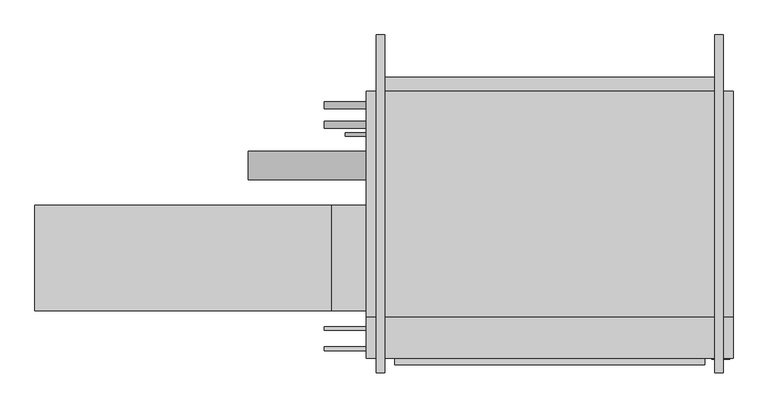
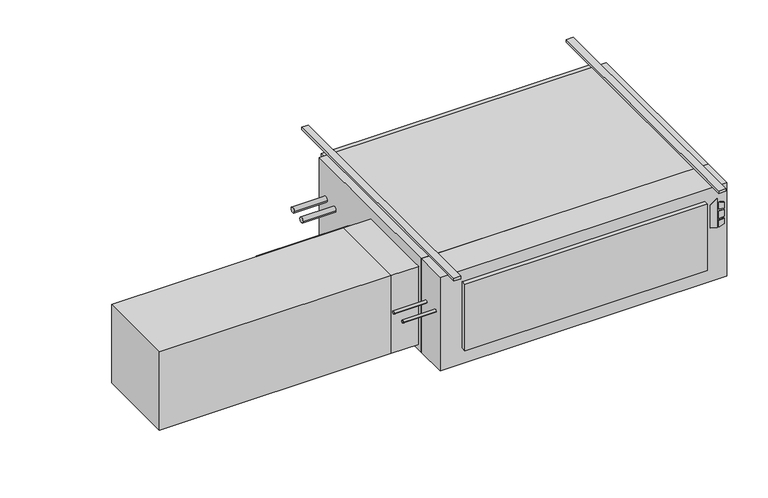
"""IFC4 building model written with IfcOpenShell, lengths in millimetres: proxy geometry."""

import ifcopenshell
import ifcopenshell.guid

model = None  # the IFC model being written
_history = None  # IfcOwnerHistory: only IFC2X3 demands one
_inside = {}  # id of a spatial element -> (the spatial element, [elements in it])
_under = {}  # id of a project, library or spatial element -> (it, [spatial elements below it])
_declared = {}  # id of a project -> (the project, [libraries it declares])
_typed = {}  # id of a type object -> (the type object, [elements of that type])
_made_of = {}  # id of a material, layer set ... -> (it, [elements and type objects made of it])


def new_model(schema):
    """Start an empty IFC model of exactly this schema.

    Asked for "IFC4X3", IfcOpenShell would pick the latest addendum, in which some entities
    have other attributes; the version numbers below select the first issue.
    IFC2X3 requires an IfcOwnerHistory on every rooted entity: one is made here for all.
    """
    global model, _history
    if schema == "IFC4X3":
        model = ifcopenshell.file(schema_version=(4, 3, 0, 0))
    else:
        model = ifcopenshell.file(schema=schema)
    _inside.clear()
    _under.clear()
    _declared.clear()
    _typed.clear()
    _made_of.clear()
    _history = None
    if model.schema == "IFC2X3":
        org = make("IfcOrganization", Name="unknown")
        user = make(
            "IfcPersonAndOrganization",
            ThePerson=make("IfcPerson", FamilyName="unknown"),
            TheOrganization=org,
        )
        app = make(
            "IfcApplication",
            ApplicationDeveloper=org,
            Version="unknown",
            ApplicationFullName="unknown",
            ApplicationIdentifier="unknown",
        )
        _history = make(
            "IfcOwnerHistory",
            OwningUser=user,
            OwningApplication=app,
            ChangeAction="ADDED",
            CreationDate=0,
        )
    return model


def make(cls, **values):
    """One entity of the class cls with the attributes given. An attribute that is None is left unset."""
    return model.create_entity(
        cls, **{name: value for name, value in values.items() if value is not None}
    )


def rooted(cls, **values):
    """An entity with a GlobalId (a new one), such as an element, a storey or a relation."""
    return make(cls, GlobalId=ifcopenshell.guid.new(), OwnerHistory=_history, **values)


def si_unit(unit_type, name, prefix=None):
    """IfcSIUnit, for example si_unit("LENGTHUNIT", "METRE", prefix="MILLI")."""
    return make("IfcSIUnit", UnitType=unit_type, Prefix=prefix, Name=name)


def assignment(units):
    """IfcUnitAssignment: the units of a project."""
    return None if units is None else make("IfcUnitAssignment", Units=units)


def point(xyz):
    """IfcCartesianPoint."""
    return None if xyz is None else make("IfcCartesianPoint", Coordinates=xyz)


def direction(xyz):
    """IfcDirection."""
    return None if xyz is None else make("IfcDirection", DirectionRatios=xyz)


def frame(location, z_axis=None, x_axis=None):
    """IfcAxis2Placement3D, a coordinate frame: its origin and axes. An axis left out is left unset."""
    return make(
        "IfcAxis2Placement3D",
        Location=point(location),
        Axis=direction(z_axis),
        RefDirection=direction(x_axis),
    )


def frame_2d(location, x_axis=None):
    """IfcAxis2Placement2D, a coordinate frame in the plane: its origin and x axis."""
    return make(
        "IfcAxis2Placement2D", Location=point(location), RefDirection=direction(x_axis)
    )


def origin():
    """The frame at (0, 0, 0) with its axes left unset."""
    return frame((0.0, 0.0, 0.0))


def origin_with_axes():
    """The frame at (0, 0, 0) with the z axis (0, 0, 1) and the x axis (1, 0, 0) written out."""
    return frame((0.0, 0.0, 0.0), z_axis=(0.0, 0.0, 1.0), x_axis=(1.0, 0.0, 0.0))


def place(relative_to, where):
    """IfcLocalPlacement: puts the frame where relative to a parent placement (None: the world)."""
    return make(
        "IfcLocalPlacement", PlacementRelTo=relative_to, RelativePlacement=where
    )


def context(
    kind, dimensions, precision=None, world=None, true_north=None, identifier=None
):
    """IfcGeometricRepresentationContext, for example the 3D "Model" context."""
    return make(
        "IfcGeometricRepresentationContext",
        ContextIdentifier=identifier,
        ContextType=kind,
        CoordinateSpaceDimension=dimensions,
        Precision=precision,
        WorldCoordinateSystem=world,
        TrueNorth=true_north,
    )


def project(units=None, contexts=None):
    """IfcProject with its units and contexts."""
    return rooted(
        "IfcProject",
        Name="project",
        RepresentationContexts=contexts,
        UnitsInContext=assignment(units),
    )


def spatial(cls, under=None, at=None, **own):
    """A site, building, storey or space (cls), placed at a placement, below another one or the project."""
    s = rooted(cls, ObjectPlacement=at, **own)
    if under is not None:
        _under.setdefault(under.id(), (under, []))[1].append(s)
    return s


def polyline(points):
    """IfcPolyline through the points."""
    return make("IfcPolyline", Points=[point(p) for p in points])


def circle_curve(where, radius):
    """IfcCircle in the frame where."""
    return make("IfcCircle", Position=where, Radius=radius)


def trimmed(basis, trim1, trim2, sense, master):
    """IfcTrimmedCurve: the piece of a basis curve between two trims."""
    return make(
        "IfcTrimmedCurve",
        BasisCurve=basis,
        Trim1=trim1,
        Trim2=trim2,
        SenseAgreement=sense,
        MasterRepresentation=master,
    )


def segment(curve, same_sense, transition):
    """IfcCompositeCurveSegment."""
    return make(
        "IfcCompositeCurveSegment",
        Transition=transition,
        SameSense=same_sense,
        ParentCurve=curve,
    )


def composite_curve(segments, self_intersect=None):
    """IfcCompositeCurve: segments joined end to end."""
    return make("IfcCompositeCurve", Segments=segments, SelfIntersect=self_intersect)


def outline(outer, holes=None, kind="AREA"):
    """IfcArbitraryClosedProfileDef: a profile drawn as a closed curve; with holes, ...WithVoids."""
    if holes is None:
        return make("IfcArbitraryClosedProfileDef", ProfileType=kind, OuterCurve=outer)
    return make(
        "IfcArbitraryProfileDefWithVoids",
        ProfileType=kind,
        OuterCurve=outer,
        InnerCurves=holes,
    )


def extrude(swept, where, along, depth):
    """IfcExtrudedAreaSolid: the profile swept, set in the frame where, extruded along a direction by depth."""
    return make(
        "IfcExtrudedAreaSolid",
        SweptArea=swept,
        Position=where,
        ExtrudedDirection=direction(along),
        Depth=depth,
    )


def shape(context_of_items, identifier, shape_type, items):
    """IfcShapeRepresentation: the items that make up one representation, for example the "Body"."""
    return make(
        "IfcShapeRepresentation",
        ContextOfItems=context_of_items,
        RepresentationIdentifier=identifier,
        RepresentationType=shape_type,
        Items=items,
    )


def source(mapping_origin, context_of_items, identifier, shape_type, items):
    """IfcRepresentationMap: a shape defined once, which mapped items show again and again."""
    return make(
        "IfcRepresentationMap",
        MappingOrigin=mapping_origin,
        MappedRepresentation=shape(context_of_items, identifier, shape_type, items),
    )


def transform(
    local_origin,
    x_axis=None,
    y_axis=None,
    z_axis=None,
    scale=None,
    scale2=None,
    scale3=None,
    uniform=True,
):
    """IfcCartesianTransformationOperator3D, or its non-uniform kind. x_axis, y_axis, z_axis: its Axis1, 2, 3."""
    if uniform:
        return make(
            "IfcCartesianTransformationOperator3D",
            Axis1=direction(x_axis),
            Axis2=direction(y_axis),
            LocalOrigin=point(local_origin),
            Scale=scale,
            Axis3=direction(z_axis),
        )
    return make(
        "IfcCartesianTransformationOperator3DnonUniform",
        Axis1=direction(x_axis),
        Axis2=direction(y_axis),
        LocalOrigin=point(local_origin),
        Scale=scale,
        Axis3=direction(z_axis),
        Scale2=scale2,
        Scale3=scale3,
    )


def mapped(mapping_source, mapping_target):
    """IfcMappedItem: shows the shape of a source again, moved by a transform."""
    return make(
        "IfcMappedItem", MappingSource=mapping_source, MappingTarget=mapping_target
    )


def made_of(thing, what):
    """Note that an element or type object is made of a material, layer set ...; save() writes the relation."""
    if what is not None:
        _made_of.setdefault(what.id(), (what, []))[1].append(thing)
    return thing


def element(
    cls,
    number,
    at=None,
    inside=None,
    cuts=None,
    type_object=None,
    material=None,
    context=None,
    identifier="Body",
    shape_type=None,
    held_by="IfcProductDefinitionShape",
    body=None,
    shapes=None,
    **own,
):
    """One element of the class cls, such as IfcWall. Its Tag is "e" and its number.

    at: its placement. inside: the storey or other place that contains it. cuts: it is an
    opening in that element (IfcRelVoidsElement). A single representation is given by context,
    identifier, shape_type and body (its items); several are given by shapes. held_by: the class
    of the entity that holds the representations. save() writes the other relations.
    """
    e = rooted(cls, Tag="e%d" % number, ObjectPlacement=at, **own)
    if body is not None:
        shapes = [shape(context, identifier, shape_type, body)]
    if shapes is not None:
        e.Representation = make(held_by, Representations=shapes)
    if inside is not None:
        _inside.setdefault(inside.id(), (inside, []))[1].append(e)
    if cuts is not None:
        rooted(
            "IfcRelVoidsElement", RelatingBuildingElement=cuts, RelatedOpeningElement=e
        )
    if type_object is not None:
        _typed.setdefault(type_object.id(), (type_object, []))[1].append(e)
    return made_of(e, material)


def aggregate(whole, parts):
    """IfcRelAggregates: a whole, such as a stair, and the parts it consists of."""
    return rooted("IfcRelAggregates", RelatingObject=whole, RelatedObjects=parts)


def save(model, path):
    """Write the relations noted so far, then the file.

    IfcRelAggregates (storeys below a building ...), IfcRelContainedInSpatialStructure (elements
    in a storey), IfcRelDefinesByType, IfcRelAssociatesMaterial and IfcRelDeclares: one each for
    every whole, place, type object, material and project.
    """
    for whole, parts in _under.values():
        aggregate(whole, parts)
    for where, things in _inside.values():
        rooted(
            "IfcRelContainedInSpatialStructure",
            RelatedElements=things,
            RelatingStructure=where,
        )
    for kind, things in _typed.values():
        rooted("IfcRelDefinesByType", RelatedObjects=things, RelatingType=kind)
    for what, things in _made_of.values():
        rooted("IfcRelAssociatesMaterial", RelatedObjects=things, RelatingMaterial=what)
    for by, libraries in _declared.values():
        rooted("IfcRelDeclares", RelatingContext=by, RelatedDefinitions=libraries)
    model.write(path)


def mechanical_equipment_fb492758(model_context):
    return source(origin(), model_context, "Body", "SweptSolid", [
        extrude(outline(polyline([(-193.2519297, 735.0868862), (-203.2, 767.2602728), (-61.0290756, 767.2602728), (-84.0510817, 735.0868862), (-193.2519297, 735.0868862)])), frame((0.0, -797.052, 0.0), z_axis=(0.0, 1.0, 0.0), x_axis=(0.0, 0.0, 1.0)), (0.0, 0.0, 1.0), 3.175),
        extrude(outline(polyline([(-114.2526443, 774.0186058), (-117.4550368, 800.1), (-88.2261958, 800.1), (-80.1617807, 774.0186058), (-114.2526443, 774.0186058)])), frame((0.0, -797.052, 0.0), z_axis=(0.0, 1.0, 0.0), x_axis=(0.0, 0.0, 1.0)), (0.0, 0.0, 1.0), 3.175),
        extrude(outline(polyline([(-166.1161712, 800.1), (-169.7816721, 774.0186058), (-203.2, 774.0186058), (-194.5657628, 800.1), (-166.1161712, 800.1)])), frame((0.0, -797.052, 0.0), z_axis=(0.0, 1.0, 0.0), x_axis=(0.0, 0.0, 1.0)), (0.0, 0.0, 1.0), 3.175),
        extrude(outline(polyline([(-126.8010097, 800.1), (-124.5191834, 774.0186058), (-160.4567319, 774.0186058), (-157.7154669, 800.1), (-126.8010097, 800.1)])), frame((0.0, -797.052, 0.0), z_axis=(0.0, 1.0, 0.0), x_axis=(0.0, 0.0, 1.0)), (0.0, 0.0, 1.0), 3.175),
        extrude(outline(polyline([(812.8, -793.877), (-508.0, -793.877), (-508.0, -644.525), (812.8, -644.525), (812.8, -793.877)])), frame((0.0, 0.0, -457.2), z_axis=(0.0, 0.0, 1.0), x_axis=(1.0, 0.0, 0.0)), (0.0, 0.0, 1.0), 457.2),
        extrude(outline(polyline([(711.2, -816.229), (-406.4, -816.229), (-406.4, -793.877), (711.2, -793.877), (711.2, -816.229)])), frame((0.0, 0.0, -381.0), z_axis=(0.0, 0.0, 1.0), x_axis=(1.0, 0.0, 0.0)), (0.0, 0.0, 1.0), 323.85),
        extrude(outline(polyline([(-1701.8, -622.3), (-1701.8, -241.3), (-635.0, -241.3), (-635.0, -622.3), (-1701.8, -622.3)])), frame((0.0, 0.0, -431.8), z_axis=(0.0, 0.0, 1.0), x_axis=(1.0, 0.0, 0.0)), (0.0, 0.0, 1.0), 381.0),
        extrude(outline(polyline([(-508.0, -241.3), (-508.0, -622.3), (-635.0, -622.3), (-635.0, -241.3), (-508.0, -241.3)])), frame((0.0, 0.0, -431.8), z_axis=(0.0, 0.0, 1.0), x_axis=(1.0, 0.0, 0.0)), (0.0, 0.0, 1.0), 381.0),
        extrude(outline(composite_curve([segment(trimmed(circle_curve(frame_2d((-758.825, -184.15)), 6.35), [point((-765.175, -184.15))], [point((-752.475, -184.15))], False, "CARTESIAN"), True, "CONTINUOUS"), segment(trimmed(circle_curve(frame_2d((-758.825, -184.15)), 6.35), [point((-752.475, -184.15))], [point((-765.175, -184.15))], False, "CARTESIAN"), True, "CONTINUOUS")], self_intersect=False)), frame((-660.4, 0.0, 0.0), z_axis=(1.0, 0.0, 0.0), x_axis=(0.0, 1.0, 0.0)), (0.0, 0.0, 1.0), 152.4),
        extrude(outline(composite_curve([segment(trimmed(circle_curve(frame_2d((-685.8, -184.15)), 6.35), [point((-692.15, -184.15))], [point((-679.45, -184.15))], False, "CARTESIAN"), True, "CONTINUOUS"), segment(trimmed(circle_curve(frame_2d((-685.8, -184.15)), 6.35), [point((-679.45, -184.15))], [point((-692.15, -184.15))], False, "CARTESIAN"), True, "CONTINUOUS")], self_intersect=False)), frame((-660.4, 0.0, 0.0), z_axis=(1.0, 0.0, 0.0), x_axis=(0.0, 1.0, 0.0)), (0.0, 0.0, 1.0), 152.4),
        extrude(outline(composite_curve([segment(trimmed(circle_curve(frame_2d((-98.4896516, -228.6360165)), 50.8), [point((-149.2896516, -228.6360165))], [point((-47.6896516, -228.6360165))], False, "CARTESIAN"), True, "CONTINUOUS"), segment(trimmed(circle_curve(frame_2d((-98.4896516, -228.6360165)), 50.8), [point((-47.6896516, -228.6360165))], [point((-149.2896516, -228.6360165))], False, "CARTESIAN"), True, "CONTINUOUS")], self_intersect=False)), frame((-933.45, 0.0, 0.0), z_axis=(1.0, 0.0, 0.0), x_axis=(0.0, 1.0, 0.0)), (0.0, 0.0, 1.0), 425.45),
        extrude(outline(composite_curve([segment(trimmed(circle_curve(frame_2d((47.625, -177.8)), 12.7), [point((34.925, -177.8))], [point((60.325, -177.8))], False, "CARTESIAN"), True, "CONTINUOUS"), segment(trimmed(circle_curve(frame_2d((47.625, -177.8)), 12.7), [point((60.325, -177.8))], [point((34.925, -177.8))], False, "CARTESIAN"), True, "CONTINUOUS")], self_intersect=False)), frame((-660.4, 0.0, 0.0), z_axis=(1.0, 0.0, 0.0), x_axis=(0.0, 1.0, 0.0)), (0.0, 0.0, 1.0), 152.4),
        extrude(outline(composite_curve([segment(trimmed(circle_curve(frame_2d((117.475, -171.45)), 12.7), [point((104.775, -171.45))], [point((130.175, -171.45))], False, "CARTESIAN"), True, "CONTINUOUS"), segment(trimmed(circle_curve(frame_2d((117.475, -171.45)), 12.7), [point((130.175, -171.45))], [point((104.775, -171.45))], False, "CARTESIAN"), True, "CONTINUOUS")], self_intersect=False)), frame((-660.4, 0.0, 0.0), z_axis=(1.0, 0.0, 0.0), x_axis=(0.0, 1.0, 0.0)), (0.0, 0.0, 1.0), 152.4),
        extrude(outline(composite_curve([segment(trimmed(circle_curve(frame_2d((12.7, -409.575)), 6.35), [point((6.35, -409.575))], [point((19.05, -409.575))], False, "CARTESIAN"), True, "CONTINUOUS"), segment(trimmed(circle_curve(frame_2d((12.7, -409.575)), 6.35), [point((19.05, -409.575))], [point((6.35, -409.575))], False, "CARTESIAN"), True, "CONTINUOUS")], self_intersect=False)), frame((-584.2, 0.0, 0.0), z_axis=(1.0, 0.0, 0.0), x_axis=(0.0, 1.0, 0.0)), (0.0, 0.0, 1.0), 76.2),
        extrude(outline(polyline([(812.8, 168.275), (812.8, -644.525), (-508.0, -644.525), (-508.0, 168.275), (812.8, 168.275)])), frame((0.0, 0.0, -457.2), z_axis=(0.0, 0.0, 1.0), x_axis=(1.0, 0.0, 0.0)), (0.0, 0.0, 1.0), 457.2),
        extrude(outline(polyline([(-469.9, 219.075), (774.7, 219.075), (774.7, 168.275), (-469.9, 168.275), (-469.9, 219.075)])), frame((0.0, 0.0, -381.0), z_axis=(0.0, 0.0, 1.0), x_axis=(1.0, 0.0, 0.0)), (0.0, 0.0, 1.0), 355.6),
        extrude(outline(polyline([(-441.325, 371.475), (-441.325, -844.677), (-473.075, -844.677), (-473.075, 371.475), (-441.325, 371.475)])), origin_with_axes(), (0.0, 0.0, 1.0), 12.7),
        extrude(outline(polyline([(777.875, 371.475), (777.875, -844.677), (746.125, -844.677), (746.125, 371.475), (777.875, 371.475)])), origin_with_axes(), (0.0, 0.0, 1.0), 12.7),
    ])


if __name__ == "__main__":
    model = new_model("IFC4")
    model_context = context("Model", 3, world=origin())
    ifc_project = project(units=[si_unit("LENGTHUNIT", "METRE", prefix="MILLI")], contexts=[model_context])
    site = spatial("IfcSite", under=ifc_project)
    building = spatial("IfcBuilding", under=site)
    placement = place(None, origin())
    mechanical_equipment_shape = mechanical_equipment_fb492758(model_context)
    element("IfcBuildingElementProxy", 1, Name="High_Capacity_Horizontal_Cabinet_Fan_Coil_Unit_-_HTY_-_IEC_-_4-Pipe_LH Side_2022 : Size 18 - 115v/60Hz/1Ph - 4/1 Coil - 4\" AirIn", ObjectType="High_Capacity_Horizontal_Cabinet_Fan_Coil_Unit_-_HTY_-_IEC_-_4-Pipe_LH Side_2022 : Size 18 - 115v/60Hz/1Ph - 4/1 Coil - 4\" AirIn", at=placement, inside=building, context=model_context, shape_type="MappedRepresentation", body=[
        mapped(mechanical_equipment_shape, transform((0.0, 0.0, 0.0), x_axis=(1.0, 0.0, 0.0), y_axis=(0.0, 1.0, 0.0), z_axis=(0.0, 0.0, 1.0))),
    ])
    save(model, "model.ifc")
